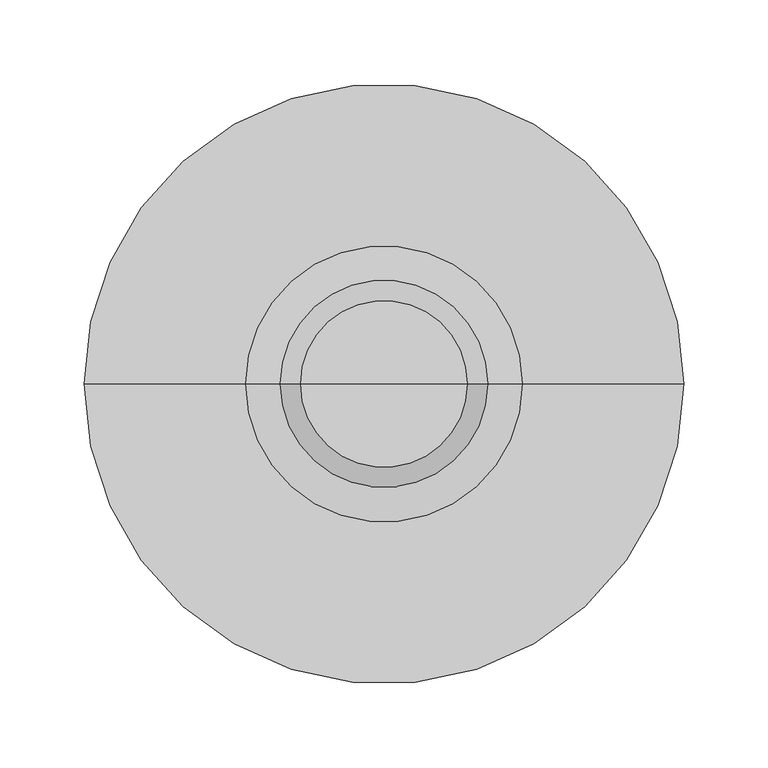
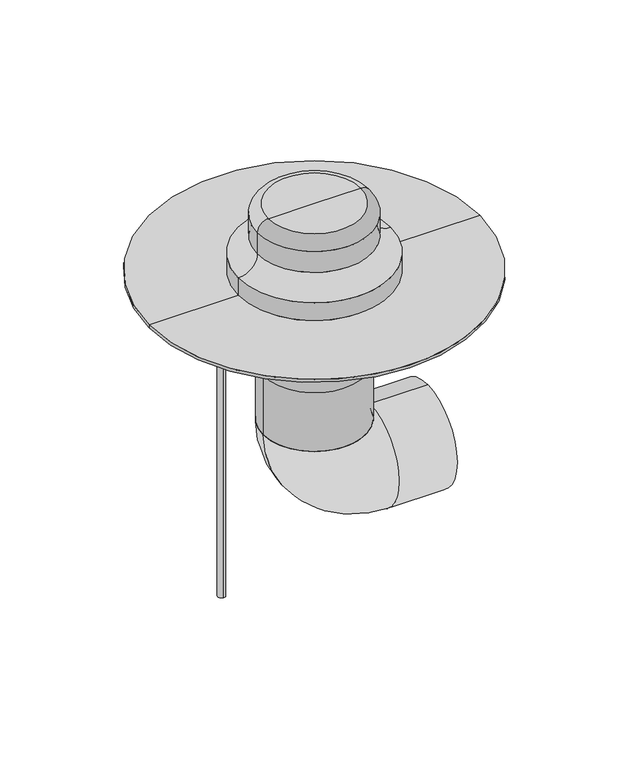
"""IFC4 building model written with IfcOpenShell, lengths in millimetres: flow terminal geometry, BIMLIB_Воронка_Кровельная_Fachmann_VMCO : 110х165."""

from ifc_helpers import new_model, si_unit, point, frame, frame_2d, origin, origin_with_axes, place, context, project, spatial, polyline, circle_curve, ellipse_curve, trimmed, segment, composite_curve, outline, extrude, source, transform, mapped, element, save
from ifc_brep_helpers import plane_surface, cylinder_surface, revolved_surface, advanced_brep


def flow_terminal_44ae2f01(model_context):
    return source(origin(), model_context, "Body", "SolidModel", [
        extrude(outline(composite_curve([segment(trimmed(circle_curve(frame_2d((-100.0, 0.0)), 4.0), [point((-100.0, 4.0))], [point((-100.0, -4.0))], False, "CARTESIAN"), True, "CONTINUOUS"), segment(trimmed(circle_curve(frame_2d((-100.0, 0.0)), 4.0), [point((-100.0, -4.0))], [point((-100.0, 4.0))], False, "CARTESIAN"), True, "CONTINUOUS")], self_intersect=False)), frame((0.0, 0.0, -332.0), z_axis=(0.0, 0.0, 1.0), x_axis=(1.0, 0.0, 0.0)), (0.0, 0.0, 1.0), 300.0),
        advanced_brep(
        [(122.0, 0.0, -170.0), (122.0, 0.0, -280.0), (60.0, 0.0, -170.0), (60.0, 0.0, -280.0), (55.0, 0.0, -165.0), (-55.0, 0.0, -165.0)],
        [
            (0, 1, circle_curve(frame((122.0, 0.0, -225.0), z_axis=(1.0, 0.0, 0.0), x_axis=(0.0, 0.0, -1.0)), 55.0)),
            (1, 0, circle_curve(frame((122.0, 0.0, -225.0), z_axis=(1.0, 0.0, 0.0), x_axis=(0.0, 0.0, -1.0)), 55.0)),
            (0, 2),
            (2, 3, circle_curve(frame((60.0, 0.0, -225.0), z_axis=(1.0, 0.0, 0.0), x_axis=(0.0, 0.0, -1.0)), 55.0)),
            (3, 1),
            (3, 2, circle_curve(frame((60.0, 0.0, -225.0), z_axis=(1.0, 0.0, 0.0), x_axis=(0.0, 0.0, -1.0)), 55.0)),
            (4, 5, circle_curve(frame((0.0, 0.0, -165.0), z_axis=(0.0, 0.0, 1.0), x_axis=(-1.0, 0.0, 0.0)), 55.0)),
            (5, 4, circle_curve(frame((0.0, 0.0, -165.0), z_axis=(0.0, 0.0, 1.0), x_axis=(-1.0, 0.0, 0.0)), 55.0)),
            (5, 3, circle_curve(frame((60.0, 0.0, -165.0), z_axis=(0.0, -1.0, 0.0), x_axis=(0.0, 0.0, -1.0)), 115.0)),
            (2, 4, circle_curve(frame((60.0, 0.0, -165.0), z_axis=(0.0, 1.0, 0.0), x_axis=(0.0, 0.0, -1.0)), 5.0)),
        ],
        [
            plane_surface(frame((122.0, 0.0, -225.0), z_axis=(1.0, 0.0, 0.0), x_axis=(0.0, -1.0, 0.0))),
            cylinder_surface(frame((122.0, 0.0, -225.0), z_axis=(1.0, 0.0, 0.0), x_axis=(0.0, 0.0, -1.0)), 55.0),
            plane_surface(frame((0.0, 0.0, -165.0), z_axis=(0.0, 0.0, 1.0), x_axis=(0.0, -1.0, 0.0))),
            revolved_surface(trimmed(ellipse_curve(frame((60.0, 0.0, -225.0), z_axis=(1.0, 0.0, 0.0), x_axis=(0.0, 0.0, -1.0)), 55.0, 55.0), [point((60.0, 0.0, -170.0))], [point((60.0, 0.0, -280.0))], True, "CARTESIAN"), (60.0, 0.0, -165.0), (0.0, 1.0, 0.0)),
            revolved_surface(trimmed(ellipse_curve(frame((60.0, 0.0, -225.0), z_axis=(1.0, 0.0, 0.0), x_axis=(0.0, 0.0, -1.0)), 55.0, 55.0), [point((60.0, 0.0, -280.0))], [point((60.0, 0.0, -170.0))], True, "CARTESIAN"), (60.0, 0.0, -165.0), (0.0, 1.0, 0.0)),
        ],
        [
            (0, [[1, 2]]),
            (1, [[-1, 3, 4, 5]]),
            (1, [[-2, -5, 6, -3]]),
            (2, [[7, 8]]),
            (3, [[9, -4, 10, -8]]),
            (4, [[-10, -6, -9, -7]]),
        ],
    ),
        advanced_brep(
        [(55.0, 0.0, -165.0), (-55.0, 0.0, -165.0), (-55.0, 0.0, -98.0), (55.0, 0.0, -98.0), (-113.0, 0.0, -9.0), (113.0, 0.0, -9.0), (113.0, 0.0, -32.0), (-113.0, 0.0, -32.0), (0.0, 0.0, 0.0), (138.0, 0.0, 0.0), (-138.0, 0.0, 0.0), (-90.0, 0.0, -32.0), (90.0, 0.0, -32.0), (90.0, 0.0, -40.0), (-90.0, 0.0, -40.0)],
        [
            (0, 1, circle_curve(frame((0.0, 0.0, -165.0), z_axis=(0.0, 0.0, -1.0), x_axis=(-1.0, 0.0, 0.0)), 55.0)),
            (1, 0, circle_curve(frame((0.0, 0.0, -165.0), z_axis=(0.0, 0.0, -1.0), x_axis=(-1.0, 0.0, 0.0)), 55.0)),
            (1, 2),
            (2, 3, circle_curve(frame((0.0, 0.0, -98.0), z_axis=(0.0, 0.0, -1.0), x_axis=(-1.0, 0.0, 0.0)), 55.0)),
            (3, 0),
            (3, 2, circle_curve(frame((0.0, 0.0, -98.0), z_axis=(0.0, 0.0, -1.0), x_axis=(-1.0, 0.0, 0.0)), 55.0)),
            (4, 5, circle_curve(frame((0.0, 0.0, -9.0), z_axis=(0.0, 0.0, -1.0), x_axis=(1.0, 0.0, 0.0)), 113.0)),
            (5, 6),
            (6, 7, circle_curve(frame((0.0, 0.0, -32.0), z_axis=(0.0, 0.0, 1.0), x_axis=(1.0, 0.0, 0.0)), 113.0)),
            (7, 4),
            (5, 4, circle_curve(frame((0.0, 0.0, -9.0), z_axis=(0.0, 0.0, -1.0), x_axis=(1.0, 0.0, 0.0)), 113.0)),
            (7, 6, circle_curve(frame((0.0, 0.0, -32.0), z_axis=(0.0, 0.0, 1.0), x_axis=(1.0, 0.0, 0.0)), 113.0)),
            (8, 9),
            (9, 10, circle_curve(origin_with_axes(), 138.0)),
            (10, 8),
            (10, 9, circle_curve(origin_with_axes(), 138.0)),
            (4, 10),
            (9, 5),
            (11, 12, circle_curve(frame((0.0, 0.0, -32.0), z_axis=(0.0, 0.0, -1.0), x_axis=(1.0, 0.0, 0.0)), 90.0)),
            (12, 13),
            (13, 14, circle_curve(frame((0.0, 0.0, -40.0), z_axis=(0.0, 0.0, 1.0), x_axis=(1.0, 0.0, 0.0)), 90.0)),
            (14, 11),
            (12, 11, circle_curve(frame((0.0, 0.0, -32.0), z_axis=(0.0, 0.0, -1.0), x_axis=(1.0, 0.0, 0.0)), 90.0)),
            (14, 13, circle_curve(frame((0.0, 0.0, -40.0), z_axis=(0.0, 0.0, 1.0), x_axis=(1.0, 0.0, 0.0)), 90.0)),
            (6, 12),
            (11, 7),
            (13, 3),
            (2, 14),
        ],
        [
            plane_surface(frame((-55.0, 0.0, -165.0), z_axis=(0.0, 0.0, -1.0), x_axis=(0.0, 1.0, 0.0))),
            cylinder_surface(frame((0.0, 0.0, -165.0), z_axis=(0.0, 0.0, 1.0), x_axis=(-1.0, 0.0, 0.0)), 55.0),
            cylinder_surface(frame((0.0, 0.0, 159.0), z_axis=(0.0, 0.0, 1.0), x_axis=(1.0, 0.0, 0.0)), 113.0),
            plane_surface(origin_with_axes()),
            revolved_surface(polyline([(113.0, 0.0, -9.0), (138.0, 0.0, 0.0)]), (0.0, 0.0, 159.0), (0.0, 0.0, 1.0)),
            cylinder_surface(frame((0.0, 0.0, 159.0), z_axis=(0.0, 0.0, 1.0), x_axis=(1.0, 0.0, 0.0)), 90.0),
            plane_surface(frame((0.0, 0.0, -32.0), z_axis=(0.0, 0.0, -1.0), x_axis=(1.0, 0.0, 0.0))),
            revolved_surface(polyline([(55.0, 0.0, -98.0), (90.0, 0.0, -40.0)]), (0.0, 0.0, 159.0), (0.0, 0.0, 1.0)),
        ],
        [
            (0, [[1, 2]]),
            (1, [[-2, 3, 4, 5]]),
            (1, [[-1, -5, 6, -3]]),
            (2, [[7, 8, 9, 10]]),
            (2, [[-8, 11, -10, 12]]),
            (3, [[13, 14, 15]]),
            (3, [[-13, -15, 16]]),
            (4, [[-7, 17, -14, 18]]),
            (4, [[-11, -18, -16, -17]]),
            (5, [[19, 20, 21, 22]]),
            (5, [[-20, 23, -22, 24]]),
            (6, [[-9, 25, -19, 26]]),
            (6, [[-12, -26, -23, -25]]),
            (7, [[-21, 27, -4, 28]]),
            (7, [[-24, -28, -6, -27]]),
        ],
    ),
        advanced_brep(
        [(0.0, 0.0, 79.0), (49.5, 0.0, 79.0), (-49.5, 0.0, 79.0), (-178.0, 0.0, 0.0), (178.0, 0.0, 0.0), (0.0, 0.0, 0.0), (-178.0, 0.0, 3.0), (178.0, 0.0, 3.0), (-82.0, 0.0, 3.0), (82.0, 0.0, 3.0), (-61.5, 0.0, 67.0), (61.5, 0.0, 67.0), (61.5, 0.0, 43.5), (-61.5, 0.0, 43.5), (-82.0, 0.0, 23.0), (82.0, 0.0, 23.0)],
        [
            (0, 1),
            (1, 2, circle_curve(frame((0.0, 0.0, 79.0), z_axis=(0.0, 0.0, 1.0), x_axis=(1.0, 0.0, 0.0)), 49.5)),
            (2, 0),
            (2, 1, circle_curve(frame((0.0, 0.0, 79.0), z_axis=(0.0, 0.0, 1.0), x_axis=(1.0, 0.0, 0.0)), 49.5)),
            (3, 4, circle_curve(frame((0.0, 0.0, 0.0), z_axis=(0.0, 0.0, -1.0), x_axis=(1.0, 0.0, 0.0)), 178.0)),
            (4, 5),
            (5, 3),
            (4, 3, circle_curve(frame((0.0, 0.0, 0.0), z_axis=(0.0, 0.0, -1.0), x_axis=(1.0, 0.0, 0.0)), 178.0)),
            (6, 7, circle_curve(frame((0.0, 0.0, 3.0), z_axis=(0.0, 0.0, -1.0), x_axis=(1.0, 0.0, 0.0)), 178.0)),
            (7, 4),
            (3, 6),
            (7, 6, circle_curve(frame((0.0, 0.0, 3.0), z_axis=(0.0, 0.0, -1.0), x_axis=(1.0, 0.0, 0.0)), 178.0)),
            (8, 9, circle_curve(frame((0.0, 0.0, 3.0), z_axis=(0.0, 0.0, -1.0), x_axis=(1.0, 0.0, 0.0)), 82.0)),
            (9, 7),
            (6, 8),
            (9, 8, circle_curve(frame((0.0, 0.0, 3.0), z_axis=(0.0, 0.0, -1.0), x_axis=(1.0, 0.0, 0.0)), 82.0)),
            (10, 11, circle_curve(frame((0.0, 0.0, 67.0), z_axis=(0.0, 0.0, -1.0), x_axis=(1.0, 0.0, 0.0)), 61.5)),
            (11, 12),
            (12, 13, circle_curve(frame((0.0, 0.0, 43.5), z_axis=(0.0, 0.0, 1.0), x_axis=(1.0, 0.0, 0.0)), 61.5)),
            (13, 10),
            (11, 10, circle_curve(frame((0.0, 0.0, 67.0), z_axis=(0.0, 0.0, -1.0), x_axis=(1.0, 0.0, 0.0)), 61.5)),
            (13, 12, circle_curve(frame((0.0, 0.0, 43.5), z_axis=(0.0, 0.0, 1.0), x_axis=(1.0, 0.0, 0.0)), 61.5)),
            (1, 11, circle_curve(frame((49.5, 0.0, 67.0), z_axis=(0.0, 1.0, 0.0), x_axis=(1.0, 0.0, 0.0)), 12.0)),
            (10, 2, circle_curve(frame((-49.5, 0.0, 67.0), z_axis=(0.0, 1.0, 0.0), x_axis=(-1.0, 0.0, 0.0)), 12.0)),
            (14, 15, circle_curve(frame((0.0, 0.0, 23.0), z_axis=(0.0, 0.0, -1.0), x_axis=(1.0, 0.0, 0.0)), 82.0)),
            (15, 9),
            (8, 14),
            (15, 14, circle_curve(frame((0.0, 0.0, 23.0), z_axis=(0.0, 0.0, -1.0), x_axis=(1.0, 0.0, 0.0)), 82.0)),
            (12, 15, circle_curve(frame((82.0, 0.0, 43.5), z_axis=(0.0, -1.0, 0.0), x_axis=(1.0, 0.0, 0.0)), 20.5)),
            (14, 13, circle_curve(frame((-82.0, 0.0, 43.5), z_axis=(0.0, -1.0, 0.0), x_axis=(-1.0, 0.0, 0.0)), 20.5)),
        ],
        [
            plane_surface(frame((0.0, 0.0, 79.0), z_axis=(0.0, 0.0, 1.0), x_axis=(1.0, 0.0, 0.0))),
            plane_surface(frame((0.0, 0.0, 0.0), z_axis=(0.0, 0.0, -1.0), x_axis=(1.0, 0.0, 0.0))),
            cylinder_surface(frame((0.0, 0.0, 229.0), z_axis=(0.0, 0.0, 1.0), x_axis=(1.0, 0.0, 0.0)), 178.0),
            plane_surface(frame((0.0, 0.0, 3.0), z_axis=(0.0, 0.0, 1.0), x_axis=(1.0, 0.0, 0.0))),
            cylinder_surface(frame((0.0, 0.0, 229.0), z_axis=(0.0, 0.0, 1.0), x_axis=(1.0, 0.0, 0.0)), 61.5),
            revolved_surface(trimmed(ellipse_curve(frame((49.5, 0.0, 67.0), z_axis=(0.0, -1.0, 0.0), x_axis=(1.0, 0.0, 0.0)), 12.0, 12.0), [point((61.5, 0.0, 67.0))], [point((49.5, 0.0, 79.0))], True, "CARTESIAN"), (0.0, 0.0, 229.0), (0.0, 0.0, 1.0)),
            cylinder_surface(frame((0.0, 0.0, 229.0), z_axis=(0.0, 0.0, 1.0), x_axis=(1.0, 0.0, 0.0)), 82.0),
            revolved_surface(trimmed(ellipse_curve(frame((82.0, 0.0, 43.5), z_axis=(0.0, 1.0, 0.0), x_axis=(1.0, 0.0, 0.0)), 20.5, 20.5), [point((82.0, 0.0, 23.0))], [point((61.5, 0.0, 43.5))], True, "CARTESIAN"), (0.0, 0.0, 229.0), (0.0, 0.0, 1.0)),
        ],
        [
            (0, [[1, 2, 3]]),
            (0, [[-3, 4, -1]]),
            (1, [[5, 6, 7]]),
            (1, [[8, -7, -6]]),
            (2, [[9, 10, -5, 11]]),
            (2, [[12, -11, -8, -10]]),
            (3, [[13, 14, -9, 15]]),
            (3, [[16, -15, -12, -14]]),
            (4, [[17, 18, 19, 20]]),
            (4, [[21, -20, 22, -18]]),
            (5, [[-2, 23, -17, 24]]),
            (5, [[-4, -24, -21, -23]]),
            (6, [[25, 26, -13, 27]]),
            (6, [[28, -27, -16, -26]]),
            (7, [[-19, 29, -25, 30]]),
            (7, [[-22, -30, -28, -29]]),
        ],
    ),
    ])


if __name__ == "__main__":
    model = new_model("IFC4")
    model_context = context("Model", 3, world=origin())
    ifc_project = project(units=[si_unit("LENGTHUNIT", "METRE", prefix="MILLI")], contexts=[model_context])
    site = spatial("IfcSite", under=ifc_project)
    building = spatial("IfcBuilding", under=site)
    placement = place(None, origin())
    flow_terminal_shape = flow_terminal_44ae2f01(model_context)
    element("IfcFlowTerminal", 1, ObjectType="BIMLIB_Воронка_Кровельная_Fachmann_VMCO : 110х165", at=placement, inside=building, context=model_context, shape_type="MappedRepresentation", body=[
        mapped(flow_terminal_shape, transform((0.0, 0.0, 0.0), x_axis=(1.0, 0.0, 0.0), y_axis=(0.0, 1.0, 0.0), z_axis=(0.0, 0.0, 1.0))),
    ])
    save(model, "model.ifc")
